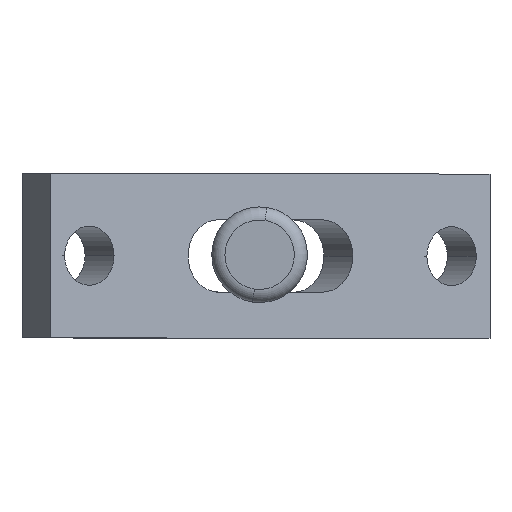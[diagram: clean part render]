
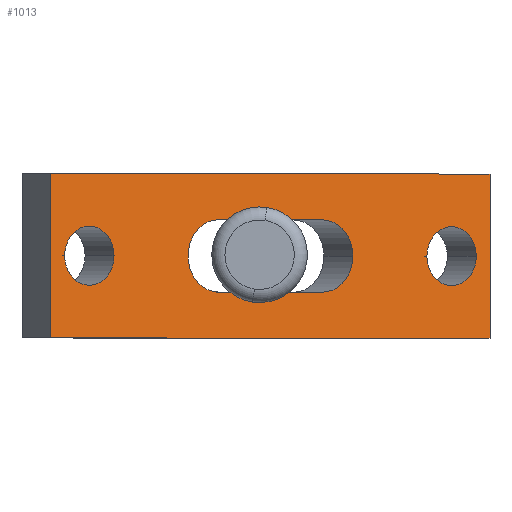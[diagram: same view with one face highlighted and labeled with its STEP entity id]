
A CAD part, top view. The second image highlights one B-rep face of the part: STEP entity #1013.
In plain terms, the highlighted planar face has unit normal (0.55, 0, 0.835) as drawn and (0, 0, 1) by its records, which use the part's own axes.
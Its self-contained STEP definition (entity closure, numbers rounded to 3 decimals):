
#48 = EDGE_CURVE ( 'NONE', #1845, #3391, #868, .T. ) ;
#156 = EDGE_CURVE ( 'NONE', #2098, #224, #2730, .T. ) ;
#185 = ORIENTED_EDGE ( 'NONE', *, *, #226, .F. ) ;
#186 = AXIS2_PLACEMENT_3D ( 'NONE', #4225, #2822, #1537 ) ;
#224 = VERTEX_POINT ( 'NONE', #3721 ) ;
#226 = EDGE_CURVE ( 'NONE', #3391, #3757, #3738, .T. ) ;
#398 = VERTEX_POINT ( 'NONE', #1460 ) ;
#449 = EDGE_LOOP ( 'NONE', ( #3388, #1678, #1200, #185, #3283 ) ) ;
#515 = CARTESIAN_POINT ( 'NONE',  ( -40., 12.5, 4. ) ) ;
#520 = CARTESIAN_POINT ( 'NONE',  ( -40., -12.5, 4. ) ) ;
#558 = DIRECTION ( 'NONE',  ( 0., -1., 0. ) ) ;
#593 = CARTESIAN_POINT ( 'NONE',  ( 40., -12.5, 4. ) ) ;
#598 = CIRCLE ( 'NONE', #2573, 5.5 ) ;
#606 = DIRECTION ( 'NONE',  ( -1., 0., 0. ) ) ;
#643 = DIRECTION ( 'NONE',  ( 1., 0., 0. ) ) ;
#679 = DIRECTION ( 'NONE',  ( -1., 0., 0. ) ) ;
#697 = EDGE_CURVE ( 'NONE', #2033, #4070, #3730, .T. ) ;
#709 = DIRECTION ( 'NONE',  ( 0., 0., 1. ) ) ;
#721 = EDGE_CURVE ( 'NONE', #3829, #2265, #1701, .T. ) ;
#729 = ORIENTED_EDGE ( 'NONE', *, *, #156, .F. ) ;
#742 = CARTESIAN_POINT ( 'NONE',  ( 40., 12.5, 4. ) ) ;
#820 = CARTESIAN_POINT ( 'NONE',  ( -37.5, 0., 4. ) ) ;
#830 = CARTESIAN_POINT ( 'NONE',  ( -40., -12.5, 4. ) ) ;
#868 = CIRCLE ( 'NONE', #2342, 5.5 ) ;
#869 = ORIENTED_EDGE ( 'NONE', *, *, #1980, .T. ) ;
#878 = CIRCLE ( 'NONE', #3489, 5.5 ) ;
#1013 = ADVANCED_FACE ( 'NONE', ( #3938, #2282, #4197, #3991 ), #3671, .T. ) ;
#1055 = DIRECTION ( 'NONE',  ( 1., 0., 0. ) ) ;
#1085 = VECTOR ( 'NONE', #558, 1000. ) ;
#1131 = DIRECTION ( 'NONE',  ( 1., 0., 0. ) ) ;
#1167 = EDGE_CURVE ( 'NONE', #224, #2098, #2043, .T. ) ;
#1200 = ORIENTED_EDGE ( 'NONE', *, *, #1680, .F. ) ;
#1223 = CARTESIAN_POINT ( 'NONE',  ( 33., 0., 4. ) ) ;
#1242 = CARTESIAN_POINT ( 'NONE',  ( 9.5, 5.5, 4. ) ) ;
#1314 = CARTESIAN_POINT ( 'NONE',  ( 40., 12.5, 4. ) ) ;
#1454 = CARTESIAN_POINT ( 'NONE',  ( 9.5, 0., 4. ) ) ;
#1460 = CARTESIAN_POINT ( 'NONE',  ( 40., -12.5, 4. ) ) ;
#1507 = DIRECTION ( 'NONE',  ( 1., 0., 0. ) ) ;
#1529 = VERTEX_POINT ( 'NONE', #1314 ) ;
#1536 = AXIS2_PLACEMENT_3D ( 'NONE', #2052, #709, #1055 ) ;
#1537 = DIRECTION ( 'NONE',  ( 1., 0., 0. ) ) ;
#1578 = ORIENTED_EDGE ( 'NONE', *, *, #721, .F. ) ;
#1613 = ORIENTED_EDGE ( 'NONE', *, *, #4286, .T. ) ;
#1633 = CARTESIAN_POINT ( 'NONE',  ( -9.5, 5.5, 4. ) ) ;
#1678 = ORIENTED_EDGE ( 'NONE', *, *, #697, .F. ) ;
#1680 = EDGE_CURVE ( 'NONE', #3757, #2033, #878, .T. ) ;
#1701 = CIRCLE ( 'NONE', #186, 4.5 ) ;
#1713 = VECTOR ( 'NONE', #2557, 1000. ) ;
#1731 = DIRECTION ( 'NONE',  ( 0., 0., 1. ) ) ;
#1754 = CARTESIAN_POINT ( 'NONE',  ( -9.5, 0., 4. ) ) ;
#1800 = DIRECTION ( 'NONE',  ( 0., 0., 1. ) ) ;
#1845 = VERTEX_POINT ( 'NONE', #3191 ) ;
#1923 = LINE ( 'NONE', #3237, #1713 ) ;
#1938 = EDGE_LOOP ( 'NONE', ( #3212, #1578 ) ) ;
#1975 = CIRCLE ( 'NONE', #1536, 4.5 ) ;
#1980 = EDGE_CURVE ( 'NONE', #398, #1529, #1923, .T. ) ;
#2023 = AXIS2_PLACEMENT_3D ( 'NONE', #4040, #2708, #643 ) ;
#2033 = VERTEX_POINT ( 'NONE', #2220 ) ;
#2043 = CIRCLE ( 'NONE', #2122, 4.5 ) ;
#2052 = CARTESIAN_POINT ( 'NONE',  ( -33., 0., 4. ) ) ;
#2098 = VERTEX_POINT ( 'NONE', #2328 ) ;
#2122 = AXIS2_PLACEMENT_3D ( 'NONE', #1223, #3611, #3960 ) ;
#2150 = AXIS2_PLACEMENT_3D ( 'NONE', #3088, #1731, #1131 ) ;
#2220 = CARTESIAN_POINT ( 'NONE',  ( -9.5, -5.5, 4. ) ) ;
#2239 = DIRECTION ( 'NONE',  ( 1., 0., 0. ) ) ;
#2265 = VERTEX_POINT ( 'NONE', #3406 ) ;
#2282 = FACE_BOUND ( 'NONE', #1938, .T. ) ;
#2294 = EDGE_CURVE ( 'NONE', #2265, #3829, #1975, .T. ) ;
#2328 = CARTESIAN_POINT ( 'NONE',  ( 28.5, 0., 4. ) ) ;
#2342 = AXIS2_PLACEMENT_3D ( 'NONE', #3941, #3256, #3929 ) ;
#2424 = ORIENTED_EDGE ( 'NONE', *, *, #3834, .T. ) ;
#2447 = DIRECTION ( 'NONE',  ( 0., 0., 1. ) ) ;
#2455 = CARTESIAN_POINT ( 'NONE',  ( 9.5, -5.5, 4. ) ) ;
#2478 = DIRECTION ( 'NONE',  ( 1., 0., 0. ) ) ;
#2557 = DIRECTION ( 'NONE',  ( 0., 1., 0. ) ) ;
#2573 = AXIS2_PLACEMENT_3D ( 'NONE', #1454, #2447, #3845 ) ;
#2678 = LINE ( 'NONE', #742, #3097 ) ;
#2708 = DIRECTION ( 'NONE',  ( 0., 0., 1. ) ) ;
#2730 = CIRCLE ( 'NONE', #2023, 4.5 ) ;
#2736 = VERTEX_POINT ( 'NONE', #830 ) ;
#2822 = DIRECTION ( 'NONE',  ( 0., 0., 1. ) ) ;
#2949 = ORIENTED_EDGE ( 'NONE', *, *, #1167, .F. ) ;
#3088 = CARTESIAN_POINT ( 'NONE',  ( -40., 12.5, 4. ) ) ;
#3097 = VECTOR ( 'NONE', #606, 1000. ) ;
#3191 = CARTESIAN_POINT ( 'NONE',  ( 15., 0., 4. ) ) ;
#3212 = ORIENTED_EDGE ( 'NONE', *, *, #2294, .F. ) ;
#3237 = CARTESIAN_POINT ( 'NONE',  ( 40., -12.5, 4. ) ) ;
#3256 = DIRECTION ( 'NONE',  ( 0., 0., 1. ) ) ;
#3283 = ORIENTED_EDGE ( 'NONE', *, *, #48, .F. ) ;
#3388 = ORIENTED_EDGE ( 'NONE', *, *, #3522, .F. ) ;
#3391 = VERTEX_POINT ( 'NONE', #1242 ) ;
#3406 = CARTESIAN_POINT ( 'NONE',  ( -28.5, 0., 4. ) ) ;
#3430 = EDGE_CURVE ( 'NONE', #4211, #2736, #3905, .T. ) ;
#3472 = VECTOR ( 'NONE', #679, 1000. ) ;
#3489 = AXIS2_PLACEMENT_3D ( 'NONE', #1754, #1800, #2478 ) ;
#3522 = EDGE_CURVE ( 'NONE', #4070, #1845, #598, .T. ) ;
#3558 = LINE ( 'NONE', #593, #4348 ) ;
#3574 = CARTESIAN_POINT ( 'NONE',  ( 9.5, 5.5, 4. ) ) ;
#3588 = ORIENTED_EDGE ( 'NONE', *, *, #3430, .T. ) ;
#3611 = DIRECTION ( 'NONE',  ( 0., 0., 1. ) ) ;
#3671 = PLANE ( 'NONE',  #2150 ) ;
#3721 = CARTESIAN_POINT ( 'NONE',  ( 37.5, 0., 4. ) ) ;
#3730 = LINE ( 'NONE', #4208, #3942 ) ;
#3738 = LINE ( 'NONE', #3574, #3472 ) ;
#3757 = VERTEX_POINT ( 'NONE', #1633 ) ;
#3829 = VERTEX_POINT ( 'NONE', #820 ) ;
#3834 = EDGE_CURVE ( 'NONE', #1529, #4211, #2678, .T. ) ;
#3845 = DIRECTION ( 'NONE',  ( 1., 0., 0. ) ) ;
#3905 = LINE ( 'NONE', #520, #1085 ) ;
#3929 = DIRECTION ( 'NONE',  ( 1., 0., 0. ) ) ;
#3938 = FACE_BOUND ( 'NONE', #3965, .T. ) ;
#3941 = CARTESIAN_POINT ( 'NONE',  ( 9.5, 0., 4. ) ) ;
#3942 = VECTOR ( 'NONE', #1507, 1000. ) ;
#3960 = DIRECTION ( 'NONE',  ( 1., 0., 0. ) ) ;
#3965 = EDGE_LOOP ( 'NONE', ( #2949, #729 ) ) ;
#3991 = FACE_OUTER_BOUND ( 'NONE', #4226, .T. ) ;
#4040 = CARTESIAN_POINT ( 'NONE',  ( 33., 0., 4. ) ) ;
#4070 = VERTEX_POINT ( 'NONE', #2455 ) ;
#4197 = FACE_BOUND ( 'NONE', #449, .T. ) ;
#4208 = CARTESIAN_POINT ( 'NONE',  ( 9.5, -5.5, 4. ) ) ;
#4211 = VERTEX_POINT ( 'NONE', #515 ) ;
#4225 = CARTESIAN_POINT ( 'NONE',  ( -33., 0., 4. ) ) ;
#4226 = EDGE_LOOP ( 'NONE', ( #3588, #1613, #869, #2424 ) ) ;
#4286 = EDGE_CURVE ( 'NONE', #2736, #398, #3558, .T. ) ;
#4348 = VECTOR ( 'NONE', #2239, 1000. ) ;
